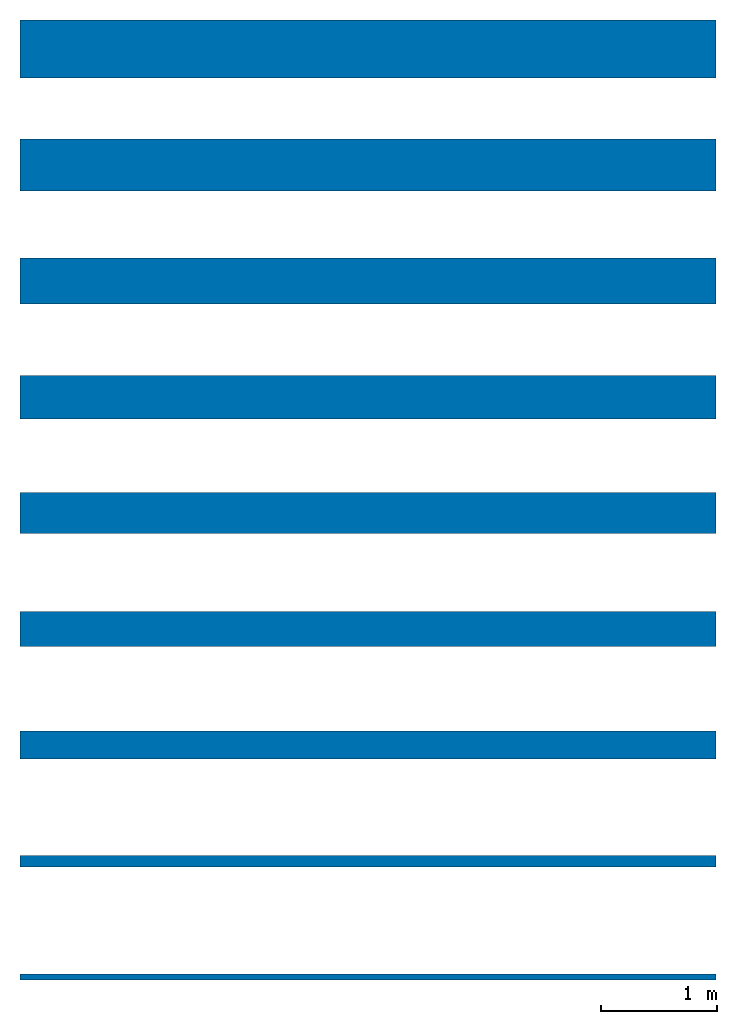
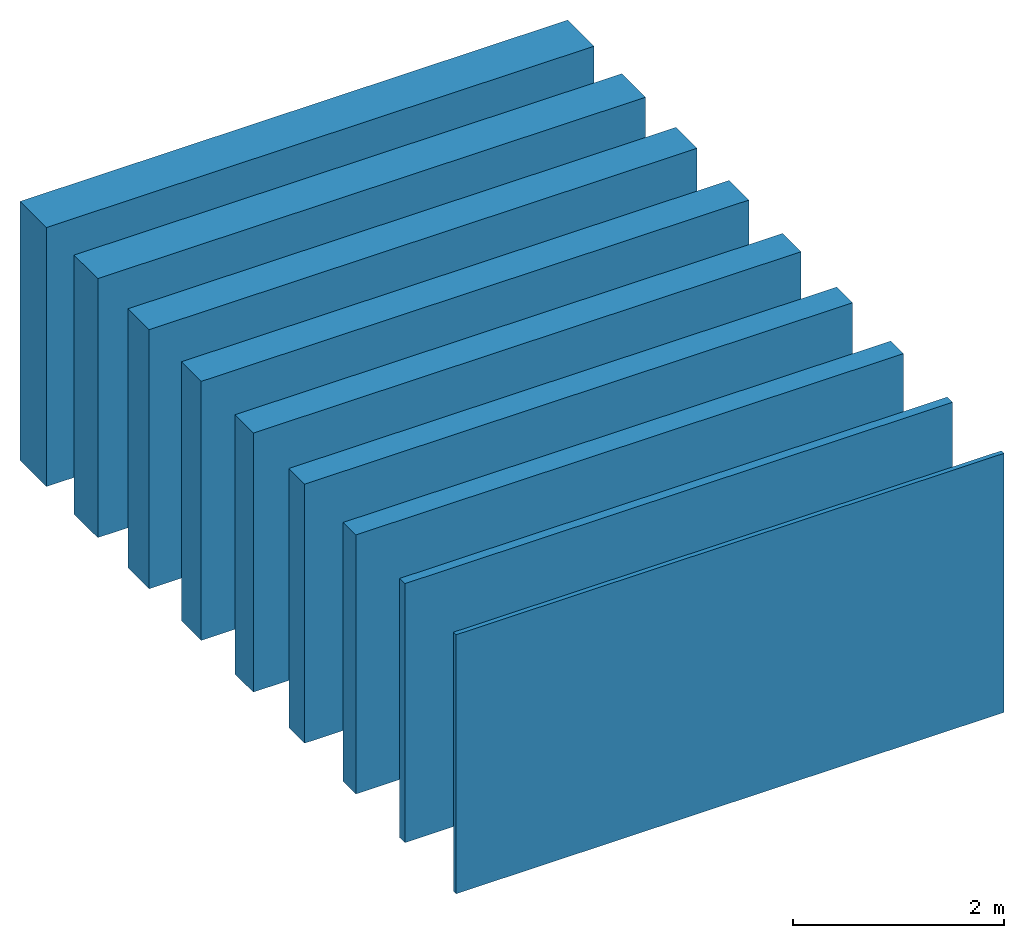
# One storey: 9 walls.
"""IFC2X3 building model written with IfcOpenShell, lengths in millimetres."""

from ifc_helpers import new_model, entity, si_unit, converted_unit, derived_unit, direction, frame, frame_2d, origin, place, context, subcontext, project, spatial, rectangle, extrude, material, layer, layer_set, layer_usage, type_object, element, save


model = new_model("IFC2X3")

# Units and contexts
model_context = context("Model", 3, precision=0.01, world=origin(), true_north=direction((6.12303176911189e-17, 1.0)))
context_of_model = context(None, 3, precision=0.01, world=origin(), true_north=direction((6.12303176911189e-17, 1.0)))
body_context = subcontext(model_context, "Body", "Model", "MODEL_VIEW")
ifc_project = project(units=[si_unit("LENGTHUNIT", "METRE", prefix="MILLI"), si_unit("AREAUNIT", "SQUARE_METRE"), si_unit("VOLUMEUNIT", "CUBIC_METRE"), converted_unit("PLANEANGLEUNIT", "DEGREE", entity("IfcRatioMeasure", 0.0174532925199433), si_unit("PLANEANGLEUNIT", "RADIAN"), dimensions=[0, 0, 0, 0, 0, 0, 0]), si_unit("MASSUNIT", "GRAM", prefix="KILO"), si_unit("TIMEUNIT", "SECOND"), si_unit("FREQUENCYUNIT", "HERTZ"), si_unit("THERMODYNAMICTEMPERATUREUNIT", "DEGREE_CELSIUS"), derived_unit("THERMALTRANSMITTANCEUNIT", [(si_unit("MASSUNIT", "GRAM", prefix="KILO"), 1), (si_unit("THERMODYNAMICTEMPERATUREUNIT", "KELVIN"), -1), (si_unit("TIMEUNIT", "SECOND"), -3)]), derived_unit("VOLUMETRICFLOWRATEUNIT", [(si_unit("LENGTHUNIT", "METRE"), 3), (si_unit("TIMEUNIT", "SECOND"), -1)]), si_unit("ELECTRICCURRENTUNIT", "AMPERE"), si_unit("ELECTRICVOLTAGEUNIT", "VOLT"), si_unit("POWERUNIT", "WATT"), si_unit("FORCEUNIT", "NEWTON", prefix="KILO"), si_unit("ILLUMINANCEUNIT", "LUX"), si_unit("LUMINOUSFLUXUNIT", "LUMEN"), si_unit("LUMINOUSINTENSITYUNIT", "CANDELA"), si_unit("PRESSUREUNIT", "PASCAL")], contexts=[model_context, context_of_model])

# Site, building, storey
site_placement = place(None, origin())
site = spatial("IfcSite", under=ifc_project, at=site_placement, Name="Default", CompositionType="ELEMENT")
building_placement = place(site_placement, origin())
building = spatial("IfcBuilding", under=site, at=building_placement, CompositionType="ELEMENT")
storey_placement = place(building_placement, origin())
storey = spatial("IfcBuildingStorey", under=building, at=storey_placement, Name="Livello 1", CompositionType="ELEMENT", Elevation=0.0)

# Walls
ifc_material = material(Name="GASBETON Active")
ifc_layer_1 = layer(ifc_material, 500.0)
ifc_layer_set_1 = layer_set([ifc_layer_1], Name="Muro di base:GASBETON Active sp. 500 mm")
ifc_layer_usage_1 = layer_usage(ifc_layer_set_1, "AXIS2", "NEGATIVE", 250.0)
wall_type_1 = type_object("IfcWallType", Name="Muro di base:GASBETON Active sp. 500 mm", PredefinedType="STANDARD", material=ifc_layer_set_1)
wall_1_placement = place(storey_placement, frame((-3077.34676084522, 7812.51701641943, 0.0)))
element("IfcWallStandardCase", 1, at=wall_1_placement, inside=storey, type_object=wall_type_1, material=ifc_layer_usage_1, Name="Muro di base:GASBETON Active sp. 500 mm", ObjectType="Muro di base:GASBETON Active sp. 500 mm", context=body_context, shape_type="SweptSolid", body=[
    extrude(rectangle(XDim=6000.0, YDim=499.999999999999, at=frame_2d((3000.0, -7.105427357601e-14), x_axis=(-1.0, 0.0))), origin(), (0.0, 0.0, 1.0), 3000.0),
])
ifc_layer_2 = layer(ifc_material, 450.0)
ifc_layer_set_2 = layer_set([ifc_layer_2], Name="Muro di base:GASBETON Active sp. 450 mm")
ifc_layer_usage_2 = layer_usage(ifc_layer_set_2, "AXIS2", "NEGATIVE", 225.0)
wall_type_2 = type_object("IfcWallType", Name="Muro di base:GASBETON Active sp. 450 mm", PredefinedType="STANDARD", material=ifc_layer_set_2)
wall_2_placement = place(storey_placement, frame((-3077.34676084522, 6812.51701641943, 0.0)))
element("IfcWallStandardCase", 2, at=wall_2_placement, inside=storey, type_object=wall_type_2, material=ifc_layer_usage_2, Name="Muro di base:GASBETON Active sp. 450 mm", ObjectType="Muro di base:GASBETON Active sp. 450 mm", context=body_context, shape_type="SweptSolid", body=[
    extrude(rectangle(XDim=6000.0, YDim=449.999999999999, at=frame_2d((3000.0, 0.0), x_axis=(-1.0, 0.0))), origin(), (0.0, 0.0, 1.0), 3000.0),
])
ifc_layer_3 = layer(ifc_material, 400.0)
ifc_layer_set_3 = layer_set([ifc_layer_3], Name="Muro di base:GASBETON Active sp. 400 mm")
ifc_layer_usage_3 = layer_usage(ifc_layer_set_3, "AXIS2", "NEGATIVE", 200.0)
wall_type_3 = type_object("IfcWallType", Name="Muro di base:GASBETON Active sp. 400 mm", PredefinedType="STANDARD", material=ifc_layer_set_3)
wall_3_placement = place(storey_placement, frame((-3077.34676084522, 5812.51701641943, 0.0)))
element("IfcWallStandardCase", 3, at=wall_3_placement, inside=storey, type_object=wall_type_3, material=ifc_layer_usage_3, Name="Muro di base:GASBETON Active sp. 400 mm", ObjectType="Muro di base:GASBETON Active sp. 400 mm", context=body_context, shape_type="SweptSolid", body=[
    extrude(rectangle(XDim=6000.0, YDim=400.0, at=frame_2d((3000.0, 0.0), x_axis=(-1.0, 0.0))), origin(), (0.0, 0.0, 1.0), 3000.0),
])
ifc_layer_4 = layer(ifc_material, 375.0)
ifc_layer_set_4 = layer_set([ifc_layer_4], Name="Muro di base:GASBETON Active sp. 375 mm")
ifc_layer_usage_4 = layer_usage(ifc_layer_set_4, "AXIS2", "NEGATIVE", 187.5)
wall_type_4 = type_object("IfcWallType", Name="Muro di base:GASBETON Active sp. 375 mm", PredefinedType="STANDARD", material=ifc_layer_set_4)
wall_4_placement = place(storey_placement, frame((-3077.34676084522, 4812.51701641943, 0.0)))
element("IfcWallStandardCase", 4, at=wall_4_placement, inside=storey, type_object=wall_type_4, material=ifc_layer_usage_4, Name="Muro di base:GASBETON Active sp. 375 mm", ObjectType="Muro di base:GASBETON Active sp. 375 mm", context=body_context, shape_type="SweptSolid", body=[
    extrude(rectangle(XDim=6000.0, YDim=375.0, at=frame_2d((3000.0, -2.70006239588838e-13), x_axis=(-1.0, 0.0))), origin(), (0.0, 0.0, 1.0), 3000.0),
])
ifc_layer_5 = layer(ifc_material, 350.0)
ifc_layer_set_5 = layer_set([ifc_layer_5], Name="Muro di base:GASBETON Active sp. 350 mm")
ifc_layer_usage_5 = layer_usage(ifc_layer_set_5, "AXIS2", "NEGATIVE", 175.0)
wall_type_5 = type_object("IfcWallType", Name="Muro di base:GASBETON Active sp. 350 mm", PredefinedType="STANDARD", material=ifc_layer_set_5)
wall_5_placement = place(storey_placement, frame((-3077.34676084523, 3812.51701641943, 0.0)))
element("IfcWallStandardCase", 5, at=wall_5_placement, inside=storey, type_object=wall_type_5, material=ifc_layer_usage_5, Name="Muro di base:GASBETON Active sp. 350 mm", ObjectType="Muro di base:GASBETON Active sp. 350 mm", context=body_context, shape_type="SweptSolid", body=[
    extrude(rectangle(XDim=6000.0, YDim=350.000000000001, at=frame_2d((3000.0, 0.0), x_axis=(-1.0, 0.0))), origin(), (0.0, 0.0, 1.0), 3000.0),
])
ifc_layer_6 = layer(ifc_material, 300.0)
ifc_layer_set_6 = layer_set([ifc_layer_6], Name="Muro di base:GASBETON Active sp. 300 mm")
ifc_layer_usage_6 = layer_usage(ifc_layer_set_6, "AXIS2", "NEGATIVE", 150.0)
wall_type_6 = type_object("IfcWallType", Name="Muro di base:GASBETON Active sp. 300 mm", PredefinedType="STANDARD", material=ifc_layer_set_6)
wall_6_placement = place(storey_placement, frame((-3077.34676084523, 2812.51701641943, 0.0)))
element("IfcWallStandardCase", 6, at=wall_6_placement, inside=storey, type_object=wall_type_6, material=ifc_layer_usage_6, Name="Muro di base:GASBETON Active sp. 300 mm", ObjectType="Muro di base:GASBETON Active sp. 300 mm", context=body_context, shape_type="SweptSolid", body=[
    extrude(rectangle(XDim=6000.0, YDim=300.0, at=frame_2d((3000.0, 0.0), x_axis=(-1.0, 0.0))), origin(), (0.0, 0.0, 1.0), 3000.0),
])
ifc_layer_7 = layer(ifc_material, 240.0)
ifc_layer_set_7 = layer_set([ifc_layer_7], Name="Muro di base:GASBETON Active sp. 240 mm")
ifc_layer_usage_7 = layer_usage(ifc_layer_set_7, "AXIS2", "NEGATIVE", 120.0)
wall_type_7 = type_object("IfcWallType", Name="Muro di base:GASBETON Active sp. 240 mm", PredefinedType="STANDARD", material=ifc_layer_set_7)
wall_7_placement = place(storey_placement, frame((-3077.34676084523, 1812.51701641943, 0.0)))
element("IfcWallStandardCase", 7, at=wall_7_placement, inside=storey, type_object=wall_type_7, material=ifc_layer_usage_7, Name="Muro di base:GASBETON Active sp. 240 mm", ObjectType="Muro di base:GASBETON Active sp. 240 mm", context=body_context, shape_type="SweptSolid", body=[
    extrude(rectangle(XDim=6000.0, YDim=240.0, at=frame_2d((3000.0, 0.0), x_axis=(-1.0, 0.0))), origin(), (0.0, 0.0, 1.0), 3000.0),
])
ifc_layer_8 = layer(ifc_material, 100.0)
ifc_layer_set_8 = layer_set([ifc_layer_8], Name="Muro di base:GASBETON Active sp. 100 mm")
ifc_layer_usage_8 = layer_usage(ifc_layer_set_8, "AXIS2", "NEGATIVE", 50.0)
wall_type_8 = type_object("IfcWallType", Name="Muro di base:GASBETON Active sp. 100 mm", PredefinedType="STANDARD", material=ifc_layer_set_8)
wall_8_placement = place(storey_placement, frame((-3077.34676084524, 812.517016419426, 0.0)))
element("IfcWallStandardCase", 8, at=wall_8_placement, inside=storey, type_object=wall_type_8, material=ifc_layer_usage_8, Name="Muro di base:GASBETON Active sp. 100 mm", ObjectType="Muro di base:GASBETON Active sp. 100 mm", context=body_context, shape_type="SweptSolid", body=[
    extrude(rectangle(XDim=6000.0, YDim=100.0, at=frame_2d((3000.0, 0.0), x_axis=(-1.0, 0.0))), origin(), (0.0, 0.0, 1.0), 3000.0),
])
ifc_layer_9 = layer(ifc_material, 50.0)
ifc_layer_set_9 = layer_set([ifc_layer_9], Name="Muro di base:GASBETON Active sp. 50 mm")
ifc_layer_usage_9 = layer_usage(ifc_layer_set_9, "AXIS2", "POSITIVE", -25.0)
wall_type_9 = type_object("IfcWallType", Name="Muro di base:GASBETON Active sp. 50 mm", PredefinedType="STANDARD", material=ifc_layer_set_9)
wall_9_placement = place(storey_placement, frame((-3077.34676084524, -187.482983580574, 0.0)))
element("IfcWallStandardCase", 9, at=wall_9_placement, inside=storey, type_object=wall_type_9, material=ifc_layer_usage_9, Name="Muro di base:GASBETON Active sp. 50 mm", ObjectType="Muro di base:GASBETON Active sp. 50 mm", context=body_context, shape_type="SweptSolid", body=[
    extrude(rectangle(XDim=6000.0, YDim=50.0, at=frame_2d((3000.0, 0.0), x_axis=(-1.0, 0.0))), origin(), (0.0, 0.0, 1.0), 3000.0),
])

save(model, "model.ifc")
